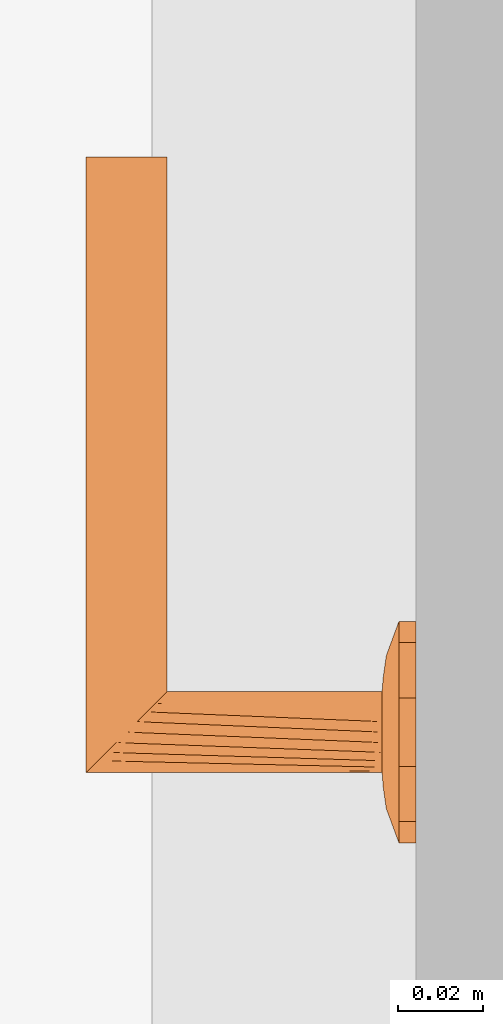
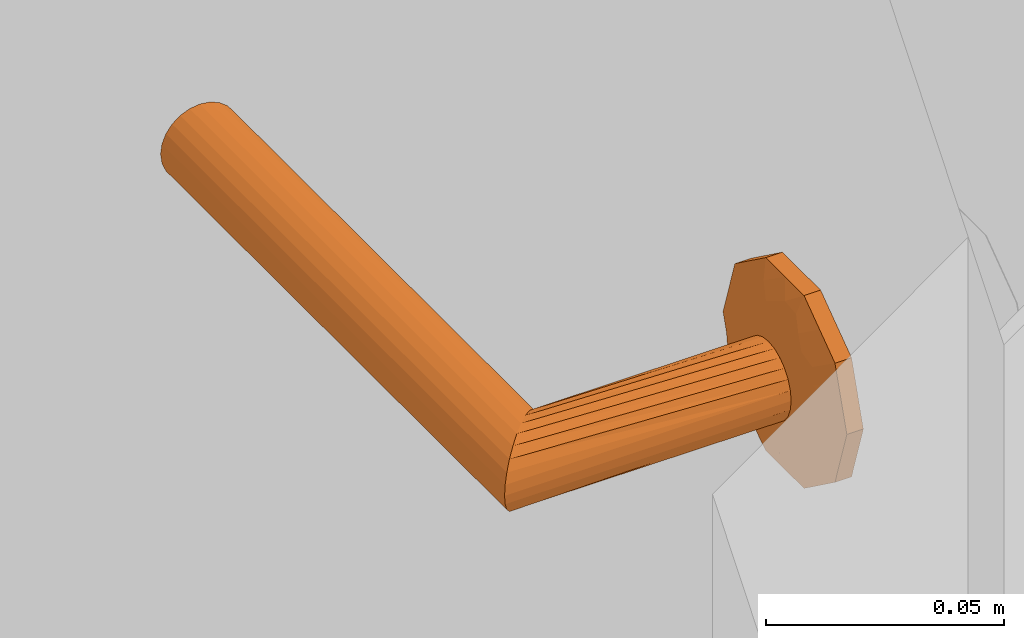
# One storey, part 124 of 125: 1 proxy.
"""IFC2X3 building model written with IfcOpenShell, lengths in millimetres."""

import ifcopenshell
import ifcopenshell.guid

model = None  # the IFC model being written
_history = None  # IfcOwnerHistory: only IFC2X3 demands one
_inside = {}  # id of a spatial element -> (the spatial element, [elements in it])
_under = {}  # id of a project, library or spatial element -> (it, [spatial elements below it])
_declared = {}  # id of a project -> (the project, [libraries it declares])
_typed = {}  # id of a type object -> (the type object, [elements of that type])
_made_of = {}  # id of a material, layer set ... -> (it, [elements and type objects made of it])


def new_model(schema):
    """Start an empty IFC model of exactly this schema.

    Asked for "IFC4X3", IfcOpenShell would pick the latest addendum, in which some entities
    have other attributes; the version numbers below select the first issue.
    IFC2X3 requires an IfcOwnerHistory on every rooted entity: one is made here for all.
    """
    global model, _history
    if schema == "IFC4X3":
        model = ifcopenshell.file(schema_version=(4, 3, 0, 0))
    else:
        model = ifcopenshell.file(schema=schema)
    _inside.clear()
    _under.clear()
    _declared.clear()
    _typed.clear()
    _made_of.clear()
    _history = None
    if model.schema == "IFC2X3":
        org = make("IfcOrganization", Name="unknown")
        user = make(
            "IfcPersonAndOrganization",
            ThePerson=make("IfcPerson", FamilyName="unknown"),
            TheOrganization=org,
        )
        app = make(
            "IfcApplication",
            ApplicationDeveloper=org,
            Version="unknown",
            ApplicationFullName="unknown",
            ApplicationIdentifier="unknown",
        )
        _history = make(
            "IfcOwnerHistory",
            OwningUser=user,
            OwningApplication=app,
            ChangeAction="ADDED",
            CreationDate=0,
        )
    return model


def make(cls, **values):
    """One entity of the class cls with the attributes given. An attribute that is None is left unset."""
    return model.create_entity(
        cls, **{name: value for name, value in values.items() if value is not None}
    )


def entity(cls, *values):
    """Any entity or typed value of the class cls, its attributes in the order of the schema. None: left unset."""
    e = model.create_entity(cls)
    for i, value in enumerate(values):
        if value is not None:
            e[i] = value
    return e


def rooted(cls, **values):
    """An entity with a GlobalId (a new one), such as an element, a storey or a relation."""
    return make(cls, GlobalId=ifcopenshell.guid.new(), OwnerHistory=_history, **values)


def si_unit(unit_type, name, prefix=None):
    """IfcSIUnit, for example si_unit("LENGTHUNIT", "METRE", prefix="MILLI")."""
    return make("IfcSIUnit", UnitType=unit_type, Prefix=prefix, Name=name)


def converted_unit(unit_type, name, factor, base, dimensions=None, offset=None):
    """IfcConversionBasedUnit, such as the inch: factor (a typed value) times the base unit."""
    return make(
        "IfcConversionBasedUnit"
        if offset is None
        else "IfcConversionBasedUnitWithOffset",
        ConversionOffset=offset,
        Dimensions=None
        if dimensions is None
        else entity("IfcDimensionalExponents", *dimensions),
        UnitType=unit_type,
        Name=name,
        ConversionFactor=make(
            "IfcMeasureWithUnit", ValueComponent=factor, UnitComponent=base
        ),
    )


def assignment(units):
    """IfcUnitAssignment: the units of a project."""
    return None if units is None else make("IfcUnitAssignment", Units=units)


def point(xyz):
    """IfcCartesianPoint."""
    return None if xyz is None else make("IfcCartesianPoint", Coordinates=xyz)


def direction(xyz):
    """IfcDirection."""
    return None if xyz is None else make("IfcDirection", DirectionRatios=xyz)


def frame(location, z_axis=None, x_axis=None):
    """IfcAxis2Placement3D, a coordinate frame: its origin and axes. An axis left out is left unset."""
    return make(
        "IfcAxis2Placement3D",
        Location=point(location),
        Axis=direction(z_axis),
        RefDirection=direction(x_axis),
    )


def origin():
    """The frame at (0, 0, 0) with its axes left unset."""
    return frame((0.0, 0.0, 0.0))


def place(relative_to, where):
    """IfcLocalPlacement: puts the frame where relative to a parent placement (None: the world)."""
    return make(
        "IfcLocalPlacement", PlacementRelTo=relative_to, RelativePlacement=where
    )


def context(
    kind, dimensions, precision=None, world=None, true_north=None, identifier=None
):
    """IfcGeometricRepresentationContext, for example the 3D "Model" context."""
    return make(
        "IfcGeometricRepresentationContext",
        ContextIdentifier=identifier,
        ContextType=kind,
        CoordinateSpaceDimension=dimensions,
        Precision=precision,
        WorldCoordinateSystem=world,
        TrueNorth=true_north,
    )


def subcontext(parent, identifier, kind, view, scale=None):
    """IfcGeometricRepresentationSubContext, for example "Body" below "Model"."""
    return make(
        "IfcGeometricRepresentationSubContext",
        ContextIdentifier=identifier,
        ContextType=kind,
        ParentContext=parent,
        TargetScale=scale,
        TargetView=view,
    )


def project(units=None, contexts=None):
    """IfcProject with its units and contexts."""
    return rooted(
        "IfcProject",
        Name="project",
        RepresentationContexts=contexts,
        UnitsInContext=assignment(units),
    )


def spatial(cls, under=None, at=None, **own):
    """A site, building, storey or space (cls), placed at a placement, below another one or the project."""
    s = rooted(cls, ObjectPlacement=at, **own)
    if under is not None:
        _under.setdefault(under.id(), (under, []))[1].append(s)
    return s


def faces_of(points, faces, orient=None, outer=None):
    """IfcFace entities. A face is a list of loops; a loop is a list of indices into points, from 0.

    orient and outer hold one flag for each loop. By default every Orientation is true, the
    first loop of a face is its IfcFaceOuterBound and the others are IfcFaceBound.
    """
    made = []
    for i, loops in enumerate(faces):
        bounds = []
        for j, loop in enumerate(loops):
            is_outer = j == 0 if outer is None else outer[i][j]
            bounds.append(
                make(
                    "IfcFaceOuterBound" if is_outer else "IfcFaceBound",
                    Bound=make("IfcPolyLoop", Polygon=[points[k] for k in loop]),
                    Orientation=True if orient is None else orient[i][j],
                )
            )
        made.append(make("IfcFace", Bounds=bounds))
    return made


def faceted_brep(points, faces, orient=None, outer=None, voids=None):
    """IfcFacetedBrep: a solid bounded by flat faces; with voids (closed shells), ...WithVoids."""
    shared = [point(p) for p in points]
    hull = make("IfcClosedShell", CfsFaces=faces_of(shared, faces, orient, outer))
    if voids is None:
        return make("IfcFacetedBrep", Outer=hull)
    return make(
        "IfcFacetedBrepWithVoids",
        Outer=hull,
        Voids=[
            make(cls, CfsFaces=faces_of(shared, fs, o, b)) for cls, fs, o, b in voids
        ],
    )


def shape(context_of_items, identifier, shape_type, items):
    """IfcShapeRepresentation: the items that make up one representation, for example the "Body"."""
    return make(
        "IfcShapeRepresentation",
        ContextOfItems=context_of_items,
        RepresentationIdentifier=identifier,
        RepresentationType=shape_type,
        Items=items,
    )


def source(mapping_origin, context_of_items, identifier, shape_type, items):
    """IfcRepresentationMap: a shape defined once, which mapped items show again and again."""
    return make(
        "IfcRepresentationMap",
        MappingOrigin=mapping_origin,
        MappedRepresentation=shape(context_of_items, identifier, shape_type, items),
    )


def transform(
    local_origin,
    x_axis=None,
    y_axis=None,
    z_axis=None,
    scale=None,
    scale2=None,
    scale3=None,
    uniform=True,
):
    """IfcCartesianTransformationOperator3D, or its non-uniform kind. x_axis, y_axis, z_axis: its Axis1, 2, 3."""
    if uniform:
        return make(
            "IfcCartesianTransformationOperator3D",
            Axis1=direction(x_axis),
            Axis2=direction(y_axis),
            LocalOrigin=point(local_origin),
            Scale=scale,
            Axis3=direction(z_axis),
        )
    return make(
        "IfcCartesianTransformationOperator3DnonUniform",
        Axis1=direction(x_axis),
        Axis2=direction(y_axis),
        LocalOrigin=point(local_origin),
        Scale=scale,
        Axis3=direction(z_axis),
        Scale2=scale2,
        Scale3=scale3,
    )


def mapped(mapping_source, mapping_target):
    """IfcMappedItem: shows the shape of a source again, moved by a transform."""
    return make(
        "IfcMappedItem", MappingSource=mapping_source, MappingTarget=mapping_target
    )


def material(Name=None, Category=None):
    """IfcMaterial."""
    return make("IfcMaterial", Name=Name, Category=Category)


def made_of(thing, what):
    """Note that an element or type object is made of a material, layer set ...; save() writes the relation."""
    if what is not None:
        _made_of.setdefault(what.id(), (what, []))[1].append(thing)
    return thing


def type_object(cls, material=None, **own):
    """A type object (cls), such as IfcWallType, which elements share."""
    return made_of(rooted(cls, **own), material)


def type_shapes(of_type, sources):
    """Give a type object the sources (RepresentationMaps) that its elements show as mapped items."""
    of_type.RepresentationMaps = sources


def element(
    cls,
    number,
    at=None,
    inside=None,
    cuts=None,
    type_object=None,
    material=None,
    context=None,
    identifier="Body",
    shape_type=None,
    held_by="IfcProductDefinitionShape",
    body=None,
    shapes=None,
    **own,
):
    """One element of the class cls, such as IfcWall. Its Tag is "e" and its number.

    at: its placement. inside: the storey or other place that contains it. cuts: it is an
    opening in that element (IfcRelVoidsElement). A single representation is given by context,
    identifier, shape_type and body (its items); several are given by shapes. held_by: the class
    of the entity that holds the representations. save() writes the other relations.
    """
    e = rooted(cls, Tag="e%d" % number, ObjectPlacement=at, **own)
    if body is not None:
        shapes = [shape(context, identifier, shape_type, body)]
    if shapes is not None:
        e.Representation = make(held_by, Representations=shapes)
    if inside is not None:
        _inside.setdefault(inside.id(), (inside, []))[1].append(e)
    if cuts is not None:
        rooted(
            "IfcRelVoidsElement", RelatingBuildingElement=cuts, RelatedOpeningElement=e
        )
    if type_object is not None:
        _typed.setdefault(type_object.id(), (type_object, []))[1].append(e)
    return made_of(e, material)


def aggregate(whole, parts):
    """IfcRelAggregates: a whole, such as a stair, and the parts it consists of."""
    return rooted("IfcRelAggregates", RelatingObject=whole, RelatedObjects=parts)


def save(model, path):
    """Write the relations noted so far, then the file.

    IfcRelAggregates (storeys below a building ...), IfcRelContainedInSpatialStructure (elements
    in a storey), IfcRelDefinesByType, IfcRelAssociatesMaterial and IfcRelDeclares: one each for
    every whole, place, type object, material and project.
    """
    for whole, parts in _under.values():
        aggregate(whole, parts)
    for where, things in _inside.values():
        rooted(
            "IfcRelContainedInSpatialStructure",
            RelatedElements=things,
            RelatingStructure=where,
        )
    for kind, things in _typed.values():
        rooted("IfcRelDefinesByType", RelatedObjects=things, RelatingType=kind)
    for what, things in _made_of.values():
        rooted("IfcRelAssociatesMaterial", RelatedObjects=things, RelatingMaterial=what)
    for by, libraries in _declared.values():
        rooted("IfcRelDeclares", RelatingContext=by, RelatedDefinitions=libraries)
    model.write(path)


model = new_model("IFC2X3")

# Units and contexts
model_context = context("Model", 3, precision=0.01, world=origin(), true_north=direction((6.123233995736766e-17, 1.0)))
plan_context = context("Plan", 3, precision=0.01, world=origin(), true_north=direction((6.123233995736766e-17, 1.0)))
body_context = subcontext(model_context, "Body", "Model", "MODEL_VIEW")
ifc_project = project(units=[si_unit("LENGTHUNIT", "METRE", prefix="MILLI"), converted_unit("PLANEANGLEUNIT", "DEGREE", entity("IfcPlaneAngleMeasure", 0.017453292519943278), si_unit("PLANEANGLEUNIT", "RADIAN"), dimensions=[0, 0, 0, 0, 0, 0, 0]), si_unit("AREAUNIT", "SQUARE_METRE")], contexts=[model_context, plan_context])

# Site, building, storey
site_placement = place(None, origin())
site = spatial("IfcSite", under=ifc_project, at=site_placement, Name="Default", CompositionType="ELEMENT")
building_placement = place(site_placement, origin())
building = spatial("IfcBuilding", under=site, at=building_placement, CompositionType="ELEMENT")
storey_placement = place(building_placement, frame((0.0, 0.0, 3125.0)))
storey = spatial("IfcBuildingStorey", under=building, at=storey_placement, Name="2K", CompositionType="ELEMENT", Elevation=3125.0)

# Proxy
ifc_material = material(Name="<Unnamed>")
building_element_proxy_type = type_object("IfcBuildingElementProxyType", Name="Door-handle_Lever_ABLOY_INOXI_3-19ss-002_RT:Default", PredefinedType="NOTDEFINED", material=ifc_material)
shared_shape = source(origin(), body_context, "Body", "Brep", [
    faceted_brep([(0.0, 0.0, 0.0), (21.034441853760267, -15.282416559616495, 0.0), (14.534441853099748, -20.00494299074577, 0.0), (8.034441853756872, -24.72746942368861, 0.0), (0.0, -24.72746942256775, 0.0), (23.51722092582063, -7.6412082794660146, 0.0), (26.0, 0.0, 0.0), (-8.034441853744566, -24.727469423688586, 0.0), (-14.534441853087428, -20.00494299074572, 0.0), (-21.03444185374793, -15.282416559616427, 0.0), (-23.517220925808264, -7.641208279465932, 0.0), (-26.0, 0.0, 0.0), (-23.517220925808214, 7.641208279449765, 0.0), (23.517220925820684, 7.641208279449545, 0.0), (21.034441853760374, 15.282416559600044, 0.0), (14.53444185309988, 20.00494299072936, 0.0), (8.034441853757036, 24.72746942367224, 0.0), (-21.034441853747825, 15.282416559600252, 0.0), (-14.53444185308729, 20.004942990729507, 0.0), (-8.0344418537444, 24.72746942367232, 0.0), (0.0, 24.72746942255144, 0.0), (0.0, 0.0, 8.0), (4.7500000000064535, -8.227241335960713, 8.0), (5.937500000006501, -6.170431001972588, 8.0), (7.125000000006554, -4.113620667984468, 8.0), (8.312500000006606, -2.0568103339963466, 8.0), (9.500000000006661, 0.0, 8.0), (8.312500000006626, 2.056810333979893, 8.0), (2.3750000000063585, -8.227241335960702, 8.0), (0.0, -8.227241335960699, 8.0), (-2.3749999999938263, -8.227241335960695, 8.0), (-4.749999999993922, -8.227241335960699, 8.0), (-5.937499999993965, -6.170431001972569, 8.0), (-7.124999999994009, -4.113620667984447, 8.0), (-8.312499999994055, -2.056810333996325, 8.0), (-9.499999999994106, 0.0, 8.0), (7.125000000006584, 4.113620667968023, 8.0), (5.937500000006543, 6.170431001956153, 8.0), (4.750000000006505, 8.227241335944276, 8.0), (2.3750000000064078, 8.22724133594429, 8.0), (-8.31249999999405, 2.0568103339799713, 8.0), (-7.12499999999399, 4.113620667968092, 8.0), (-5.9374999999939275, 6.170431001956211, 8.0), (-4.74999999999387, 8.227241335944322, 8.0), (0.0, 8.227241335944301, 8.0), (-2.374999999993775, 8.227241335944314, 8.0), (-22.488765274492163, -10.806469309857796, 4.030771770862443), (-16.663919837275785, -7.932665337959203, 6.877259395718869), (-20.643071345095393, -6.292822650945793, 5.929480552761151), (-12.50457926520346, -5.179566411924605, 7.774932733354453), (-16.764060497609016, -3.820257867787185, 7.1747985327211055), (-9.071726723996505, -10.311606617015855, 7.7520782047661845), (-11.963426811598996, -8.625290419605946, 7.618343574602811), (-11.979136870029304, -13.678312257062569, 6.945778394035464), (5.7585542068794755, -20.96753300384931, 5.871476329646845), (0.0, -24.72746942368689, 4.030771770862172), (8.03444185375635, -24.727469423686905, 4.030771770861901), (16.66391982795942, -7.932665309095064, 6.877259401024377), (22.488765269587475, -10.806469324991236, 4.03077177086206), (20.64307133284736, -6.29282258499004, 5.929480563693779), (14.534441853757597, -20.004942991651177, 4.030771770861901), (9.499431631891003, -18.64368355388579, 6.154325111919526), (-15.783149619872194, -11.991003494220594, 6.50080018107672), (-21.034441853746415, -15.282416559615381, 4.030771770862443), (-14.53444185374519, -20.00494299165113, 4.030771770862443), (-23.012042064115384, 0.0, 5.135401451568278), (-23.943088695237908, -6.330522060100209, 4.030771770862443), (11.96342678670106, -8.62529049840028, 7.618343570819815), (12.504579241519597, -5.179566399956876, 7.774932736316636), (16.764060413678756, -3.8202578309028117, 7.17479855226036), (15.783149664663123, -11.991003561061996, 6.50080015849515), (17.985351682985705, 0.0, 6.993737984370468), (23.012042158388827, 0.0, 5.135401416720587), (8.661516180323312, -10.478936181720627, 7.768126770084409), (-8.03444185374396, -24.727469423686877, 4.030771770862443), (-3.3573143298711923, -21.197247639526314, 5.971427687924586), (-9.941915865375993, -17.061976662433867, 6.522757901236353), (-5.973257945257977, -16.430139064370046, 7.110979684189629), (-7.711266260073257, -12.760344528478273, 7.594456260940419), (11.979136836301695, -13.678312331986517, 6.945778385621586), (7.511307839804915, -13.358932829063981, 7.529187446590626), (5.953298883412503, -16.50608604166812, 7.096344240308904), (-1.5654593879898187, -15.307443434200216, 7.519134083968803), (-7.784980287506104, -20.476295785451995, 5.812837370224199), (2.8135289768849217, -17.76392260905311, 6.993737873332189), (-17.98535168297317, 0.0, 6.993737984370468), (-26.0, 0.0, 4.030771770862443), (-23.51722092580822, -7.641208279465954, 4.030771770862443), (23.943088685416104, -6.33052209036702, 4.030771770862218), (24.308823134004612, -5.204907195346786, 4.030771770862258), (26.0, 0.0, 4.030771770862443), (21.03444185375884, -15.282416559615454, 4.030771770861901), (22.617646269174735, -10.40981439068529, 4.030771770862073), (22.488765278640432, 10.806469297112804, 4.030771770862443), (16.66391984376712, 7.932665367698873, 6.877259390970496), (20.643071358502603, 6.292822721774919, 5.929480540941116), (12.504579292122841, 5.179566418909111, 7.774932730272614), (16.764060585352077, 3.8202579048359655, 7.174798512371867), (9.07172672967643, 10.31160659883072, 7.752078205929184), (11.963426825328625, 8.62529034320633, 7.618343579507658), (11.979136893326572, 13.67831220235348, 6.9457784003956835), (-5.758554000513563, 20.96753314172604, 5.8714763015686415), (0.0, 24.72746942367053, 4.030771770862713), (-8.03444185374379, 24.72746942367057, 4.030771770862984), (-16.663919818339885, 7.932665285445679, 6.877259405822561), (-22.48876526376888, 10.806469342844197, 4.030771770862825), (-20.643071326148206, 6.2928225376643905, 5.929480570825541), (-14.534441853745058, 20.004942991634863, 4.030771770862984), (-9.499431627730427, 18.643683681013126, 6.154325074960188), (15.783149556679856, 11.991003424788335, 6.5008002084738), (21.03444185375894, 15.282416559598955, 4.030771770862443), (14.534441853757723, 20.004942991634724, 4.030771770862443), (23.943088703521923, 6.330522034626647, 4.030771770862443), (-11.96342675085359, 8.625290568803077, 7.618343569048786), (-12.504579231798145, 5.179566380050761, 7.77493273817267), (-16.764060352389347, 3.820257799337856, 7.174798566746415), (-15.78314967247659, 11.991003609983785, 6.500800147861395), (-8.661516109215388, 10.478936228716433, 7.768126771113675), (8.034441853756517, 24.727469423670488, 4.030771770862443), (3.3573144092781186, 21.197247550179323, 5.971427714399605), (9.941915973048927, 17.061976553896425, 6.522757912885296), (5.9732581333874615, 16.430139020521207, 7.110979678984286), (7.711266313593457, 12.760344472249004, 7.5944562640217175), (-11.979136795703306, 13.678312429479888, 6.945778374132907), (-7.511307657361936, 13.358932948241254, 7.5291874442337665), (-5.9532988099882, 16.50608628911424, 7.096344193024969), (1.5654596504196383, 15.3074431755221, 7.519134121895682), (7.784980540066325, 20.476295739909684, 5.812837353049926), (-2.81352881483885, 17.76392263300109, 6.993737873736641), (23.51722092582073, 7.6412082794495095, 4.030771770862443), (-23.94308867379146, 6.330522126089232, 4.030771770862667), (-24.308823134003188, 5.20490719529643, 4.030771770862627), (-21.034441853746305, 15.282416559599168, 4.030771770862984), (-22.617646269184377, 10.409814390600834, 4.0307717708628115)], [[[0, 1, 2]], [[0, 2, 3]], [[0, 3, 4]], [[0, 5, 1]], [[0, 6, 5]], [[0, 4, 7]], [[0, 7, 8]], [[0, 8, 9]], [[0, 9, 10]], [[0, 10, 11]], [[0, 11, 12]], [[0, 13, 6]], [[0, 14, 13]], [[0, 15, 14]], [[0, 16, 15]], [[0, 12, 17]], [[0, 17, 18]], [[0, 18, 19]], [[0, 19, 20]], [[0, 20, 16]], [[21, 22, 23]], [[21, 23, 24]], [[21, 24, 25]], [[21, 25, 26]], [[21, 26, 27]], [[21, 28, 22]], [[21, 29, 28]], [[21, 30, 29]], [[21, 31, 30]], [[21, 32, 31]], [[21, 33, 32]], [[21, 34, 33]], [[21, 35, 34]], [[21, 27, 36]], [[21, 36, 37]], [[21, 37, 38]], [[21, 38, 39]], [[21, 40, 35]], [[21, 41, 40]], [[21, 42, 41]], [[21, 43, 42]], [[21, 39, 44]], [[21, 44, 45]], [[21, 45, 43]], [[46, 47, 48]], [[47, 49, 50]], [[49, 33, 34]], [[51, 52, 53]], [[49, 52, 33]], [[48, 47, 50]], [[54, 55, 56]], [[57, 58, 59]], [[56, 60, 61]], [[62, 63, 64]], [[65, 66, 48]], [[67, 57, 68]], [[68, 69, 25]], [[57, 67, 70]], [[69, 26, 25]], [[62, 53, 52]], [[71, 69, 72]], [[67, 23, 73]], [[74, 55, 75]], [[76, 77, 78]], [[79, 60, 70]], [[69, 59, 72]], [[80, 81, 61]], [[77, 30, 78]], [[82, 30, 77]], [[28, 80, 22]], [[77, 83, 75]], [[75, 82, 77]], [[55, 84, 75]], [[85, 50, 35]], [[24, 68, 25]], [[82, 84, 29]], [[84, 82, 75]], [[31, 78, 30]], [[82, 29, 30]], [[34, 35, 50]], [[52, 49, 47]], [[62, 52, 47]], [[34, 50, 49]], [[53, 78, 51]], [[32, 33, 52]], [[85, 65, 50]], [[66, 65, 86]], [[67, 68, 24]], [[77, 76, 83]], [[65, 48, 50]], [[63, 62, 46]], [[48, 66, 87, 46]], [[62, 47, 46]], [[69, 68, 57]], [[80, 73, 22]], [[70, 67, 79]], [[67, 24, 23]], [[72, 88, 89, 90]], [[69, 71, 26]], [[59, 69, 57]], [[61, 60, 79]], [[62, 64, 53]], [[91, 58, 70]], [[72, 59, 88]], [[57, 70, 58]], [[59, 58, 92]], [[80, 61, 79]], [[91, 70, 60]], [[61, 81, 54]], [[73, 80, 79]], [[28, 84, 81]], [[67, 73, 79]], [[29, 84, 28]], [[22, 73, 23]], [[51, 31, 32]], [[76, 78, 53]], [[53, 64, 76]], [[83, 64, 74]], [[64, 83, 76]], [[75, 83, 74]], [[31, 51, 78]], [[52, 51, 32]], [[28, 81, 80]], [[54, 81, 84]], [[55, 54, 84]], [[61, 54, 56]], [[93, 94, 95]], [[94, 96, 97]], [[96, 36, 27]], [[98, 99, 100]], [[96, 99, 36]], [[95, 94, 97]], [[101, 102, 103]], [[104, 105, 106]], [[103, 107, 108]], [[109, 110, 111]], [[72, 112, 95]], [[113, 104, 114]], [[114, 115, 40]], [[104, 113, 116]], [[115, 35, 40]], [[109, 100, 99]], [[85, 115, 65]], [[113, 42, 117]], [[118, 102, 119]], [[120, 121, 122]], [[123, 107, 116]], [[115, 106, 65]], [[124, 125, 108]], [[121, 39, 122]], [[126, 39, 121]], [[45, 124, 43]], [[121, 127, 119]], [[119, 126, 121]], [[102, 128, 119]], [[71, 97, 26]], [[41, 114, 40]], [[126, 128, 44]], [[128, 126, 119]], [[38, 122, 39]], [[126, 44, 39]], [[27, 26, 97]], [[99, 96, 94]], [[109, 99, 94]], [[27, 97, 96]], [[100, 122, 98]], [[37, 36, 99]], [[71, 72, 97]], [[112, 72, 90]], [[113, 114, 41]], [[121, 120, 127]], [[72, 95, 97]], [[110, 109, 93]], [[95, 112, 129, 93]], [[109, 94, 93]], [[115, 114, 104]], [[124, 117, 43]], [[116, 113, 123]], [[113, 41, 42]], [[65, 130, 131, 86]], [[115, 85, 35]], [[106, 115, 104]], [[108, 107, 123]], [[109, 111, 100]], [[132, 105, 116]], [[65, 106, 130]], [[104, 116, 105]], [[106, 105, 133]], [[124, 108, 123]], [[132, 116, 107]], [[108, 125, 101]], [[117, 124, 123]], [[45, 128, 125]], [[113, 117, 123]], [[44, 128, 45]], [[43, 117, 42]], [[98, 38, 37]], [[120, 122, 100]], [[100, 111, 120]], [[127, 111, 118]], [[111, 127, 120]], [[119, 127, 118]], [[38, 98, 122]], [[99, 98, 37]], [[45, 125, 124]], [[101, 125, 128]], [[102, 101, 128]], [[108, 101, 103]], [[7, 74, 64, 63, 9, 8]], [[10, 9, 63, 46, 87, 66, 86, 11]], [[6, 90, 89, 88, 92, 1, 5]], [[1, 58, 91]], [[74, 7, 4, 3, 56, 55]], [[60, 56, 3, 2, 1, 91]], [[1, 92, 58]], [[14, 110, 93, 129, 112, 90, 6, 13]], [[111, 110, 14, 15, 16, 118]], [[11, 86, 131, 130, 133, 17, 12]], [[17, 105, 132]], [[118, 16, 20, 19, 103, 102]], [[107, 103, 19, 18, 17, 132]], [[17, 133, 105]], [[59, 92, 88]], [[106, 133, 130]]]),
    faceted_brep([(4.7499999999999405, -8.22724133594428, 8.0), (2.4587809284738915, -9.176295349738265, 8.0), (0.0, -9.499999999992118, 8.0), (-2.4587809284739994, -9.176295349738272, 8.0), (-4.7500000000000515, -8.227241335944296, 8.0), (-6.717514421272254, -6.717514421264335, 8.0), (-8.227241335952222, -4.74999999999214, 8.0), (-9.176295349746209, -2.4587809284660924, 8.0), (-9.500000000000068, 0.0, 8.0), (-9.176295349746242, 2.458780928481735, 8.0), (-8.227241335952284, 4.750000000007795, 8.0), (-6.717514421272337, 6.717514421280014, 8.0), (-4.750000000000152, 8.227241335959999, 8.0), (-2.4587809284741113, 9.176295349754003, 8.0), (0.0, 9.500000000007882, 8.0), (2.4587809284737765, 9.176295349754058, 8.0), (4.7499999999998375, 8.227241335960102, 8.0), (6.717514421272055, 6.717514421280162, 8.0), (8.22724133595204, 4.75000000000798, 8.0), (9.17629534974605, 2.458780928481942, 8.0), (9.499999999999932, 0.0, 8.0), (9.17629534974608, -2.458780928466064, 8.0), (8.227241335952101, -4.749999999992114, 8.0), (6.717514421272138, -6.7175144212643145, 8.0), (-8.227241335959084, 4.7499999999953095, 59.772758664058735), (-6.717514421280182, 6.7175144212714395, 61.282485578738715), (-9.176295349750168, 2.458780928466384, 58.82370465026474), (-4.750000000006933, 8.227241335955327, 63.25000000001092), (-2.4587809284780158, 9.176295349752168, 65.54121907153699), (-9.500000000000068, 0.0, 58.50000000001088), (0.0, 9.50000000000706, 68.0), (4.750000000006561, 8.227241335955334, 72.75000000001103), (2.4587809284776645, 9.17629534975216, 70.45878092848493), (6.717514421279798, 6.7175144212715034, 74.71751442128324), (8.22724133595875, 4.749999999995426, 76.22724133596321), (9.17629534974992, 2.458780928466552, 77.17629534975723), (9.499999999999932, 0.0, 77.50000000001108), (9.176295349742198, -2.4587809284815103, 77.1762953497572), (8.227241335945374, -4.750000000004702, 76.22724133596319), (6.7175144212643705, -6.717514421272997, 74.7175144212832), (4.749999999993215, -8.227241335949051, 72.75000000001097), (2.4587809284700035, -9.17629534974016, 70.45878092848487), (0.0, -9.49999999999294, 68.0), (-2.4587809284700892, -9.176295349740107, 65.54121907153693), (-4.749999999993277, -8.227241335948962, 63.250000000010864), (-6.717514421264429, -6.717514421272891, 61.282485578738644), (-9.176295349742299, -2.458780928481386, 58.8237046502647), (-8.227241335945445, -4.750000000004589, 59.77275866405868), (-135.0, -9.176295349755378, 70.4587809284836), (-135.0, -8.227241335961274, 72.75000000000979), (-135.0, -6.717514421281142, 74.71751442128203), (-135.0, -4.750000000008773, 76.22724133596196), (-135.0, -2.4587809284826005, 77.17629534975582), (-135.0, 0.0, 77.5000000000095), (-135.0, 2.4587809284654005, 77.17629534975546), (-135.0, 4.749999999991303, 76.22724133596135), (-135.0, 6.717514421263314, 74.71751442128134), (-135.0, 8.227241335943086, 72.75000000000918), (-135.0, 9.17629534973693, 70.45878092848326), (-135.0, 9.499999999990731, 68.0), (-135.0, 9.17629534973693, 65.54121907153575), (-135.0, 8.227241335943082, 63.250000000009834), (-135.0, 6.717514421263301, 61.28248557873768), (-135.0, 4.749999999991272, 59.772758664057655), (-135.0, 2.458780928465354, 58.823704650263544), (-135.0, 0.0, 58.50000000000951), (-135.0, -2.458780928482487, 58.82370465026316), (-135.0, -4.750000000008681, 59.772758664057), (-135.0, -6.7175144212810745, 61.28248557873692), (-135.0, -8.227241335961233, 63.25000000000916), (-135.0, -9.176295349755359, 65.54121907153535), (-135.0, -9.500000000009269, 68.0)], [[[0, 1, 2, 3, 4, 5, 6, 7, 8, 9, 10, 11, 12, 13, 14, 15, 16, 17, 18, 19, 20, 21, 22, 23]], [[24, 25, 11, 10]], [[26, 24, 10, 9]], [[14, 27, 28]], [[13, 27, 14]], [[25, 27, 13]], [[29, 26, 9, 8]], [[12, 11, 25]], [[25, 13, 12]], [[28, 30, 15]], [[31, 17, 32]], [[33, 18, 31]], [[19, 34, 35]], [[33, 34, 19]], [[20, 19, 35, 36]], [[16, 15, 30]], [[14, 28, 15]], [[19, 18, 33]], [[17, 31, 18]], [[17, 16, 32]], [[30, 32, 16]], [[20, 36, 37, 21]], [[38, 21, 37]], [[22, 39, 40]], [[38, 39, 21]], [[23, 40, 41]], [[39, 22, 21]], [[1, 42, 43]], [[42, 1, 0]], [[23, 41, 0]], [[23, 22, 40]], [[41, 42, 0]], [[44, 45, 3]], [[43, 44, 2]], [[46, 29, 8, 7]], [[47, 46, 7, 6]], [[45, 47, 6, 5]], [[45, 4, 3]], [[3, 2, 44]], [[5, 4, 45]], [[43, 2, 1]], [[48, 49, 50, 51, 52, 53, 54, 55, 56, 57, 58, 59, 60, 61, 62, 63, 64, 65, 66, 67, 68, 69, 70, 71]], [[64, 63, 24, 26]], [[65, 64, 26, 29]], [[61, 60, 28, 27]], [[62, 61, 27, 25]], [[63, 62, 25, 24]], [[59, 30, 28, 60]], [[57, 56, 33, 31]], [[58, 57, 31, 32]], [[54, 53, 36, 35]], [[55, 54, 35, 34]], [[56, 55, 34, 33]], [[32, 30, 59, 58]], [[52, 51, 38, 37]], [[53, 52, 37, 36]], [[49, 48, 41, 40]], [[50, 49, 40, 39]], [[51, 50, 39, 38]], [[42, 41, 48, 71]], [[69, 68, 45, 44]], [[70, 69, 44, 43]], [[66, 65, 29, 46]], [[67, 66, 46, 47]], [[68, 67, 47, 45]], [[42, 71, 70, 43]]]),
])
type_shapes(building_element_proxy_type, [shared_shape])
proxy_placement = place(storey_placement, frame((13442.0, 10468.0, 1000.0), z_axis=(-1.0, 0.0, 0.0), x_axis=(0.0, -1.0, 0.0)))
element("IfcBuildingElementProxy", 1, at=proxy_placement, inside=storey, type_object=building_element_proxy_type, material=ifc_material, Name="Door-handle_Lever_ABLOY_INOXI_3-19ss-002_RT:Default", ObjectType="Door-handle_Lever_ABLOY_INOXI_3-19ss-002_RT:Default", context=body_context, shape_type="MappedRepresentation", body=[
    mapped(shared_shape, transform((0.0, 0.0, 0.0), scale=1.0)),
])

save(model, "model.ifc")
